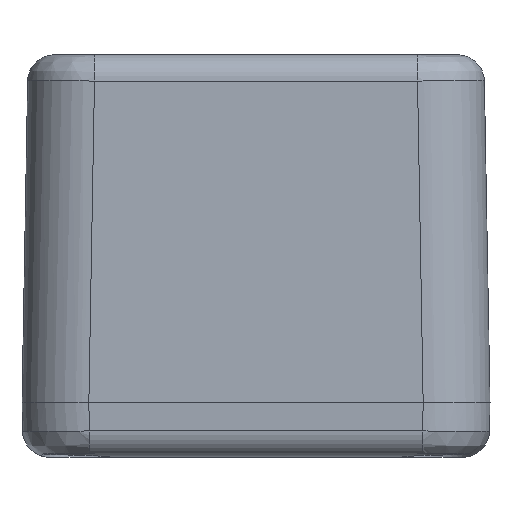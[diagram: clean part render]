
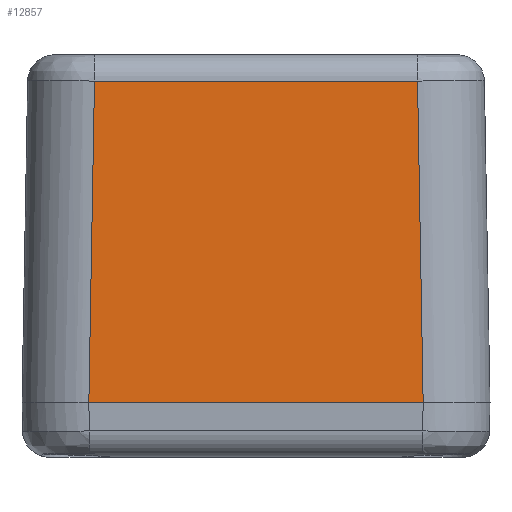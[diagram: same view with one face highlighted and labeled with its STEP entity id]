
A CAD part, left-side view. The second image highlights one B-rep face of the part: STEP entity #12857.
In plain terms, the highlighted planar face has unit normal (-1, 0, 0.018).
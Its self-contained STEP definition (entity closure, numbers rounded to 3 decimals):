
#1383=FACE_OUTER_BOUND('',#2152,.T.);
#2152=EDGE_LOOP('',(#8993,#8994,#8995,#8996));
#3071=LINE('',#20688,#4149);
#3072=LINE('',#20690,#4150);
#3073=LINE('',#20692,#4151);
#3074=LINE('',#20693,#4152);
#4149=VECTOR('',#14405,24.042);
#4150=VECTOR('',#14406,24.162);
#4151=VECTOR('',#14407,24.042);
#4152=VECTOR('',#14408,25.002);
#5545=VERTEX_POINT('',#20686);
#5546=VERTEX_POINT('',#20687);
#5547=VERTEX_POINT('',#20689);
#5548=VERTEX_POINT('',#20691);
#6904=EDGE_CURVE('',#5545,#5546,#3071,.T.);
#6905=EDGE_CURVE('',#5546,#5547,#3072,.F.);
#6906=EDGE_CURVE('',#5547,#5548,#3073,.F.);
#6907=EDGE_CURVE('',#5548,#5545,#3074,.T.);
#8993=ORIENTED_EDGE('',*,*,#6904,.T.);
#8994=ORIENTED_EDGE('',*,*,#6905,.T.);
#8995=ORIENTED_EDGE('',*,*,#6906,.T.);
#8996=ORIENTED_EDGE('',*,*,#6907,.T.);
#12534=PLANE('',#13594);
#12857=ADVANCED_FACE('',(#1383),#12534,.T.);
#13594=AXIS2_PLACEMENT_3D('',#20685,#14403,#14404);
#14403=DIRECTION('center_axis',(-1.,0.,
0.017));
#14404=DIRECTION('ref_axis',(0.017,0.,1.));
#14405=DIRECTION('',(0.017,0.017,1.));
#14406=DIRECTION('',(0.,-1.,0.));
#14407=DIRECTION('',(0.017,-0.017,1.));
#14408=DIRECTION('',(0.,-1.,0.));
#20685=CARTESIAN_POINT('Origin',(-44.5,17.5,0.));
#20686=CARTESIAN_POINT('',(-44.5,-12.501,0.));
#20687=CARTESIAN_POINT('',(-44.08,-12.081,24.035));
#20688=CARTESIAN_POINT('',(-44.5,-12.501,0.));
#20689=CARTESIAN_POINT('',(-44.08,12.081,24.035));
#20690=CARTESIAN_POINT('',(-44.08,12.081,24.035));
#20691=CARTESIAN_POINT('',(-44.5,12.501,0.));
#20692=CARTESIAN_POINT('',(-44.5,12.501,0.));
#20693=CARTESIAN_POINT('',(-44.5,12.501,0.));
